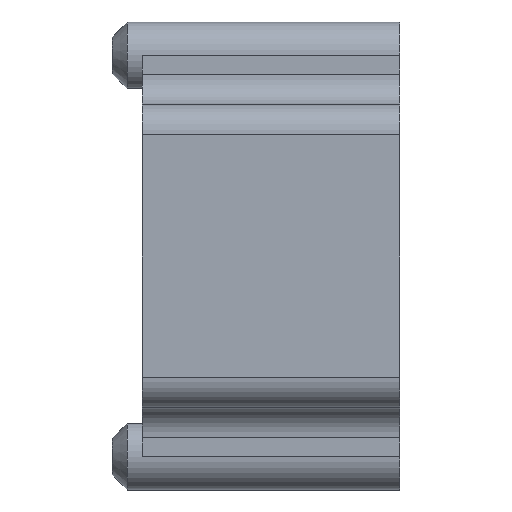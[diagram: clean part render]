
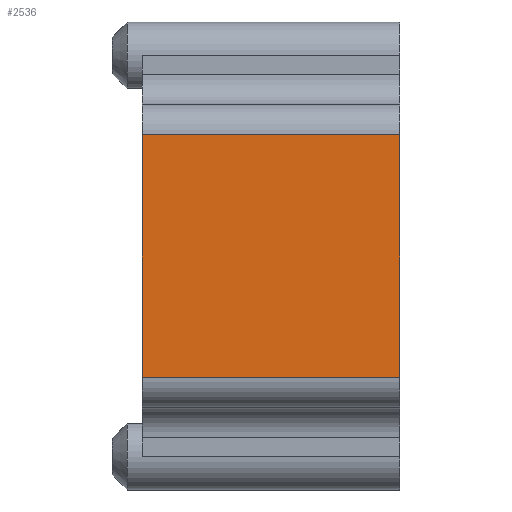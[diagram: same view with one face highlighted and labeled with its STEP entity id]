
A CAD part, left-side view. The second image highlights one B-rep face of the part: STEP entity #2536.
In plain terms, the highlighted planar face has unit normal (-1, 0, 0).
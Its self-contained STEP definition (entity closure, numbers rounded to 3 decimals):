
#423 = EDGE_CURVE ( 'NONE', #7901, #7180, #1870, .T. ) ;
#574 = CARTESIAN_POINT ( 'NONE',  ( -28., 17., -16. ) ) ;
#756 = VECTOR ( 'NONE', #6403, 1000. ) ;
#1072 = CARTESIAN_POINT ( 'NONE',  ( -28., 17., -20. ) ) ;
#1077 = LINE ( 'NONE', #3504, #3027 ) ;
#1176 = VECTOR ( 'NONE', #4295, 1000. ) ;
#1419 = DIRECTION ( 'NONE',  ( 0., 0., 1. ) ) ;
#1453 = LINE ( 'NONE', #7002, #756 ) ;
#1659 = FACE_OUTER_BOUND ( 'NONE', #5985, .T. ) ;
#1870 = LINE ( 'NONE', #574, #1176 ) ;
#2057 = ORIENTED_EDGE ( 'NONE', *, *, #5282, .T. ) ;
#2135 = AXIS2_PLACEMENT_3D ( 'NONE', #1072, #4130, #3540 ) ;
#2536 = ADVANCED_FACE ( 'NONE', ( #1659 ), #6533, .F. ) ;
#2996 = VERTEX_POINT ( 'NONE', #6723 ) ;
#3027 = VECTOR ( 'NONE', #5940, 1000. ) ;
#3504 = CARTESIAN_POINT ( 'NONE',  ( -28., 17., -20. ) ) ;
#3540 = DIRECTION ( 'NONE',  ( 0., 0., -1. ) ) ;
#4130 = DIRECTION ( 'NONE',  ( 1., 0., 0. ) ) ;
#4295 = DIRECTION ( 'NONE',  ( 0., -1., 0. ) ) ;
#4453 = VERTEX_POINT ( 'NONE', #5865 ) ;
#4907 = CARTESIAN_POINT ( 'NONE',  ( -28., 17., -16. ) ) ;
#5067 = VECTOR ( 'NONE', #1419, 1000. ) ;
#5087 = EDGE_CURVE ( 'NONE', #7901, #2996, #1077, .T. ) ;
#5094 = CARTESIAN_POINT ( 'NONE',  ( -28., -17., -20. ) ) ;
#5282 = EDGE_CURVE ( 'NONE', #7180, #4453, #7694, .T. ) ;
#5456 = ORIENTED_EDGE ( 'NONE', *, *, #5087, .F. ) ;
#5681 = CARTESIAN_POINT ( 'NONE',  ( -28., -17., -16. ) ) ;
#5720 = EDGE_CURVE ( 'NONE', #4453, #2996, #1453, .T. ) ;
#5865 = CARTESIAN_POINT ( 'NONE',  ( -28., -17., 16. ) ) ;
#5940 = DIRECTION ( 'NONE',  ( 0., 0., 1. ) ) ;
#5962 = ORIENTED_EDGE ( 'NONE', *, *, #423, .T. ) ;
#5985 = EDGE_LOOP ( 'NONE', ( #5456, #5962, #2057, #6536 ) ) ;
#6403 = DIRECTION ( 'NONE',  ( 0., 1., 0. ) ) ;
#6533 = PLANE ( 'NONE',  #2135 ) ;
#6536 = ORIENTED_EDGE ( 'NONE', *, *, #5720, .T. ) ;
#6723 = CARTESIAN_POINT ( 'NONE',  ( -28., 17., 16. ) ) ;
#7002 = CARTESIAN_POINT ( 'NONE',  ( -28., 17., 16. ) ) ;
#7180 = VERTEX_POINT ( 'NONE', #5681 ) ;
#7694 = LINE ( 'NONE', #5094, #5067 ) ;
#7901 = VERTEX_POINT ( 'NONE', #4907 ) ;
